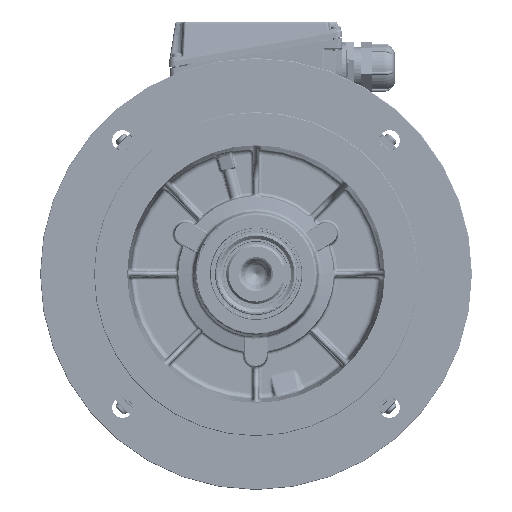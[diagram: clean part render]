
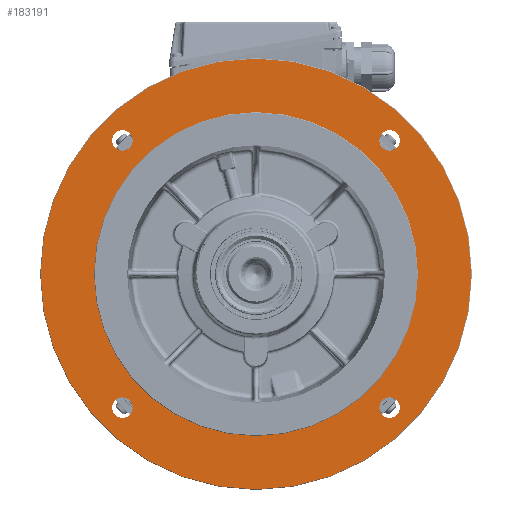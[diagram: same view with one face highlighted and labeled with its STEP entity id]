
A CAD part, front view. The second image highlights one B-rep face of the part: STEP entity #183191.
In plain terms, the highlighted planar face has unit normal (0, -1, 0) as drawn and (-1, 0, 0) by its records, which use the part's own axes.
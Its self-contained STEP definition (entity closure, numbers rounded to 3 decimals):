
#3474=PLANE('',#193546);
#43308=ORIENTED_EDGE('',*,*,#83548,.T.);
#43309=ORIENTED_EDGE('',*,*,#83549,.F.);
#43310=ORIENTED_EDGE('',*,*,#83550,.F.);
#43311=ORIENTED_EDGE('',*,*,#83551,.F.);
#43312=ORIENTED_EDGE('',*,*,#83552,.F.);
#43313=ORIENTED_EDGE('',*,*,#83545,.F.);
#83545=EDGE_CURVE('',#104305,#104305,#117247,.T.);
#83548=EDGE_CURVE('',#104308,#104308,#117250,.T.);
#83549=EDGE_CURVE('',#104309,#104309,#117251,.T.);
#83550=EDGE_CURVE('',#104310,#104310,#117252,.T.);
#83551=EDGE_CURVE('',#104311,#104311,#117253,.T.);
#83552=EDGE_CURVE('',#104312,#104312,#117254,.T.);
#104305=VERTEX_POINT('',#337732);
#104308=VERTEX_POINT('',#337740);
#104309=VERTEX_POINT('',#337742);
#104310=VERTEX_POINT('',#337744);
#104311=VERTEX_POINT('',#337746);
#104312=VERTEX_POINT('',#337748);
#117247=CIRCLE('',#193542,150.);
#117250=CIRCLE('',#193547,199.5);
#117251=CIRCLE('',#193548,9.5);
#117252=CIRCLE('',#193549,9.5);
#117253=CIRCLE('',#193550,9.5);
#117254=CIRCLE('',#193551,9.5);
#125645=EDGE_LOOP('',(#43308));
#125646=EDGE_LOOP('',(#43309));
#125647=EDGE_LOOP('',(#43310));
#125648=EDGE_LOOP('',(#43311));
#125649=EDGE_LOOP('',(#43312));
#125650=EDGE_LOOP('',(#43313));
#136049=FACE_BOUND('',#125645,.T.);
#136050=FACE_BOUND('',#125646,.T.);
#136051=FACE_BOUND('',#125647,.T.);
#136052=FACE_BOUND('',#125648,.T.);
#136053=FACE_BOUND('',#125649,.T.);
#136054=FACE_BOUND('',#125650,.T.);
#183191=ADVANCED_FACE('',(#136049,#136050,#136051,#136052,#136053,#136054),
#3474,.T.);
#193542=AXIS2_PLACEMENT_3D('',#337731,#214319,#214320);
#193546=AXIS2_PLACEMENT_3D('',#337738,#214327,#214328);
#193547=AXIS2_PLACEMENT_3D('',#337739,#214329,#214330);
#193548=AXIS2_PLACEMENT_3D('',#337741,#214331,#214332);
#193549=AXIS2_PLACEMENT_3D('',#337743,#214333,#214334);
#193550=AXIS2_PLACEMENT_3D('',#337745,#214335,#214336);
#193551=AXIS2_PLACEMENT_3D('',#337747,#214337,#214338);
#214319=DIRECTION('',(-1.,0.,0.));
#214320=DIRECTION('',(0.,0.,1.));
#214327=DIRECTION('',(-1.,0.,0.));
#214328=DIRECTION('',(0.,0.,1.));
#214329=DIRECTION('',(-1.,0.,0.));
#214330=DIRECTION('',(0.,0.,1.));
#214331=DIRECTION('',(-1.,0.,0.));
#214332=DIRECTION('',(0.,0.,1.));
#214333=DIRECTION('',(-1.,0.,0.));
#214334=DIRECTION('',(0.,0.,1.));
#214335=DIRECTION('',(-1.,0.,0.));
#214336=DIRECTION('',(0.,0.,1.));
#214337=DIRECTION('',(-1.,0.,0.));
#214338=DIRECTION('',(0.,0.,1.));
#337731=CARTESIAN_POINT('',(-20.,0.,0.));
#337732=CARTESIAN_POINT('',(-20.,0.,150.));
#337738=CARTESIAN_POINT('',(-20.,0.,200.));
#337739=CARTESIAN_POINT('',(-20.,0.,0.));
#337740=CARTESIAN_POINT('',(-20.,0.,199.5));
#337741=CARTESIAN_POINT('',(-20.,-123.744,-123.744));
#337742=CARTESIAN_POINT('',(-20.,-123.744,-114.244));
#337743=CARTESIAN_POINT('',(-20.,123.744,-123.744));
#337744=CARTESIAN_POINT('',(-20.,123.744,-114.244));
#337745=CARTESIAN_POINT('',(-20.,123.744,123.744));
#337746=CARTESIAN_POINT('',(-20.,123.744,133.244));
#337747=CARTESIAN_POINT('',(-20.,-123.744,123.744));
#337748=CARTESIAN_POINT('',(-20.,-123.744,133.244));
